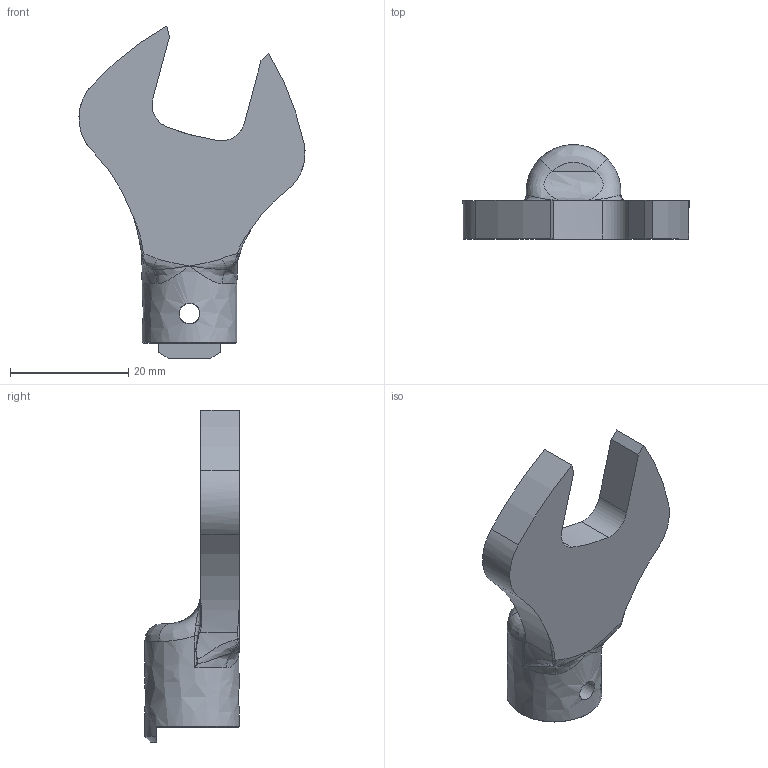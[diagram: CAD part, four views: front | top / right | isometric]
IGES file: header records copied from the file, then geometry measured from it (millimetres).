
Global section: file name: SH10DX16; native system: Autodesk Inventor 2016; preprocessor: unknown; author: Q600; date: 20151029.184825; units: millimetre
Bounding box: 38.2 x 16 x 56.12 mm (x, y, z)
Volume: 7538.7 mm3; surface area: 4200.9 mm2
Topology: 1 solids, 1 shells, 75 faces, 206 edges, 122 vertices
Faces by surface type: bspline 75
